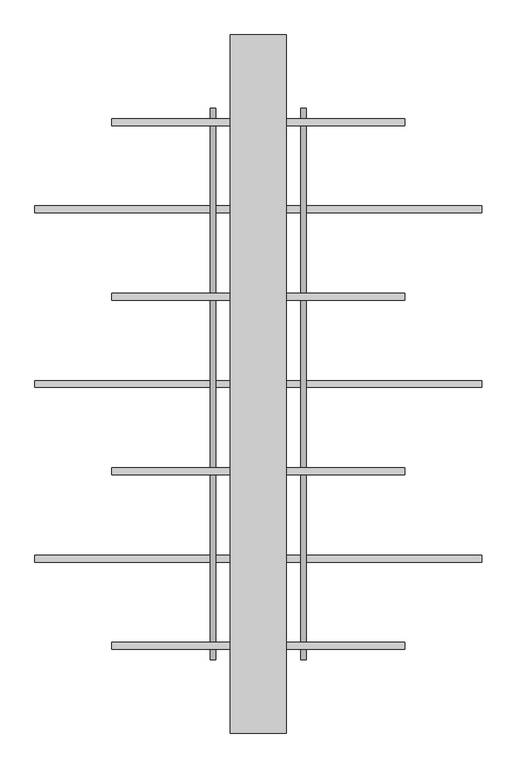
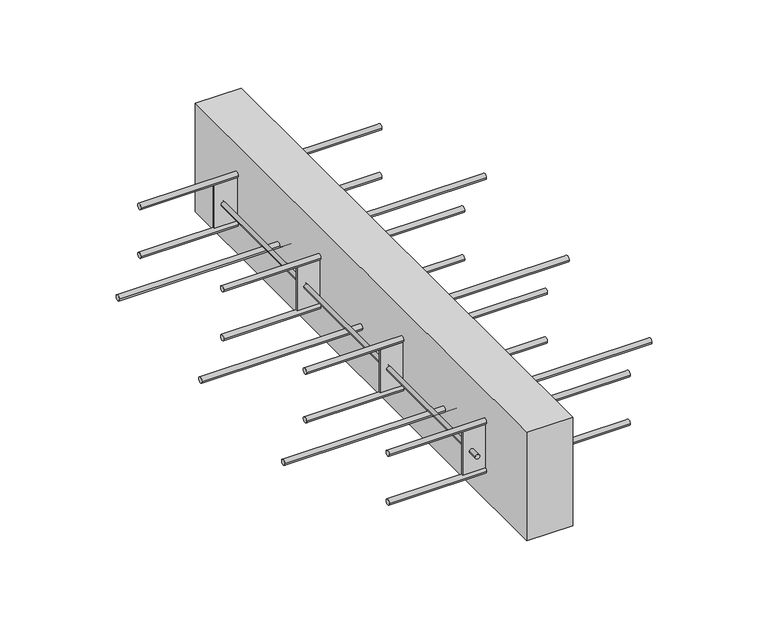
"""IFC4 building model written with IfcOpenShell, lengths in millimetres: proxy geometry, ACINOXplus_Typenreihe_Q : QC+ N."""

from ifc_helpers import new_model, si_unit, point, frame, frame_2d, origin, place, context, project, spatial, polyline, circle_curve, trimmed, segment, composite_curve, outline, extrude, source, transform, mapped, element, save


def generic_models_8f71b679(model_context):
    return source(origin(), model_context, "Body", "SweptSolid", [
        extrude(outline(composite_curve([segment(trimmed(circle_curve(frame_2d((0.0, -109.0)), 5.0), [point((-5.0, -109.0))], [point((5.0, -109.0))], False, "CARTESIAN"), True, "CONTINUOUS"), segment(trimmed(circle_curve(frame_2d((0.0, -109.0)), 5.0), [point((5.0, -109.0))], [point((-5.0, -109.0))], False, "CARTESIAN"), True, "CONTINUOUS")], self_intersect=False)), frame((-320.0, 0.0, 0.0), z_axis=(1.0, 0.0, 0.0), x_axis=(0.0, 1.0, 0.0)), (0.0, 0.0, 1.0), 640.0),
        extrude(outline(composite_curve([segment(trimmed(circle_curve(frame_2d((250.0, -109.0)), 5.0), [point((245.0, -109.0))], [point((255.0, -109.0))], False, "CARTESIAN"), True, "CONTINUOUS"), segment(trimmed(circle_curve(frame_2d((250.0, -109.0)), 5.0), [point((255.0, -109.0))], [point((245.0, -109.0))], False, "CARTESIAN"), True, "CONTINUOUS")], self_intersect=False)), frame((-320.0, 0.0, 0.0), z_axis=(1.0, 0.0, 0.0), x_axis=(0.0, 1.0, 0.0)), (0.0, 0.0, 1.0), 640.0),
        extrude(outline(composite_curve([segment(trimmed(circle_curve(frame_2d((-250.0, -109.0)), 5.0), [point((-255.0, -109.0))], [point((-245.0, -109.0))], False, "CARTESIAN"), True, "CONTINUOUS"), segment(trimmed(circle_curve(frame_2d((-250.0, -109.0)), 5.0), [point((-245.0, -109.0))], [point((-255.0, -109.0))], False, "CARTESIAN"), True, "CONTINUOUS")], self_intersect=False)), frame((-320.0, 0.0, 0.0), z_axis=(1.0, 0.0, 0.0), x_axis=(0.0, 1.0, 0.0)), (0.0, 0.0, 1.0), 640.0),
        extrude(outline(polyline([(40.0, 500.0), (40.0, -500.0), (-40.0, -500.0), (-40.0, 500.0), (40.0, 500.0)])), frame((0.0, 0.0, -200.0), z_axis=(0.0, 0.0, 1.0), x_axis=(1.0, 0.0, 0.0)), (0.0, 0.0, 1.0), 200.0),
        extrude(outline(polyline([(80.0, -123.5), (80.0, -126.5), (-80.0, -126.5), (-80.0, -123.5), (80.0, -123.5)])), frame((0.0, 0.0, -140.0), z_axis=(0.0, 0.0, 1.0), x_axis=(1.0, 0.0, 0.0)), (0.0, 0.0, 1.0), 80.0),
        extrude(outline(polyline([(80.0, 126.5), (80.0, 123.5), (-80.0, 123.5), (-80.0, 126.5), (80.0, 126.5)])), frame((0.0, 0.0, -140.0), z_axis=(0.0, 0.0, 1.0), x_axis=(1.0, 0.0, 0.0)), (0.0, 0.0, 1.0), 80.0),
        extrude(outline(polyline([(80.0, -373.5), (80.0, -376.5), (-80.0, -376.5), (-80.0, -373.5), (80.0, -373.5)])), frame((0.0, 0.0, -140.0), z_axis=(0.0, 0.0, 1.0), x_axis=(1.0, 0.0, 0.0)), (0.0, 0.0, 1.0), 80.0),
        extrude(outline(polyline([(80.0, 376.5), (80.0, 373.5), (-80.0, 373.5), (-80.0, 376.5), (80.0, 376.5)])), frame((0.0, 0.0, -140.0), z_axis=(0.0, 0.0, 1.0), x_axis=(1.0, 0.0, 0.0)), (0.0, 0.0, 1.0), 80.0),
        extrude(outline(composite_curve([segment(trimmed(circle_curve(frame_2d((-100.0, -65.0)), 4.0), [point((-100.0, -69.0))], [point((-100.0, -61.0))], False, "CARTESIAN"), True, "CONTINUOUS"), segment(trimmed(circle_curve(frame_2d((-100.0, -65.0)), 4.0), [point((-100.0, -61.0))], [point((-100.0, -69.0))], False, "CARTESIAN"), True, "CONTINUOUS")], self_intersect=False)), frame((0.0, -373.5, 0.0), z_axis=(0.0, 1.0, 0.0), x_axis=(0.0, 0.0, 1.0)), (0.0, 0.0, 1.0), 497.0),
        extrude(outline(composite_curve([segment(trimmed(circle_curve(frame_2d((-100.0, -65.0)), 4.0), [point((-100.0, -69.0))], [point((-100.0, -61.0))], False, "CARTESIAN"), True, "CONTINUOUS"), segment(trimmed(circle_curve(frame_2d((-100.0, -65.0)), 4.0), [point((-100.0, -61.0))], [point((-100.0, -69.0))], False, "CARTESIAN"), True, "CONTINUOUS")], self_intersect=False)), frame((0.0, 376.5, 0.0), z_axis=(0.0, 1.0, 0.0), x_axis=(0.0, 0.0, 1.0)), (0.0, 0.0, 1.0), 18.5),
        extrude(outline(composite_curve([segment(trimmed(circle_curve(frame_2d((-100.0, -65.0)), 4.0), [point((-100.0, -61.0))], [point((-100.0, -69.0))], False, "CARTESIAN"), True, "CONTINUOUS"), segment(trimmed(circle_curve(frame_2d((-100.0, -65.0)), 4.0), [point((-100.0, -69.0))], [point((-100.0, -61.0))], False, "CARTESIAN"), True, "CONTINUOUS")], self_intersect=False)), frame((0.0, -395.0, 0.0), z_axis=(0.0, 1.0, 0.0), x_axis=(0.0, 0.0, 1.0)), (0.0, 0.0, 1.0), 18.5),
        extrude(outline(composite_curve([segment(trimmed(circle_curve(frame_2d((-100.0, -65.0)), 4.0), [point((-100.0, -69.0))], [point((-100.0, -61.0))], False, "CARTESIAN"), True, "CONTINUOUS"), segment(trimmed(circle_curve(frame_2d((-100.0, -65.0)), 4.0), [point((-100.0, -61.0))], [point((-100.0, -69.0))], False, "CARTESIAN"), True, "CONTINUOUS")], self_intersect=False)), frame((0.0, 126.5, 0.0), z_axis=(0.0, 1.0, 0.0), x_axis=(0.0, 0.0, 1.0)), (0.0, 0.0, 1.0), 247.0),
        extrude(outline(composite_curve([segment(trimmed(circle_curve(frame_2d((-100.0, 65.0)), 4.0), [point((-100.0, 61.0))], [point((-100.0, 69.0))], False, "CARTESIAN"), True, "CONTINUOUS"), segment(trimmed(circle_curve(frame_2d((-100.0, 65.0)), 4.0), [point((-100.0, 69.0))], [point((-100.0, 61.0))], False, "CARTESIAN"), True, "CONTINUOUS")], self_intersect=False)), frame((0.0, -373.5, 0.0), z_axis=(0.0, 1.0, 0.0), x_axis=(0.0, 0.0, 1.0)), (0.0, 0.0, 1.0), 497.0),
        extrude(outline(composite_curve([segment(trimmed(circle_curve(frame_2d((-100.0, 65.0)), 4.0), [point((-100.0, 61.0))], [point((-100.0, 69.0))], False, "CARTESIAN"), True, "CONTINUOUS"), segment(trimmed(circle_curve(frame_2d((-100.0, 65.0)), 4.0), [point((-100.0, 69.0))], [point((-100.0, 61.0))], False, "CARTESIAN"), True, "CONTINUOUS")], self_intersect=False)), frame((0.0, 376.5, 0.0), z_axis=(0.0, 1.0, 0.0), x_axis=(0.0, 0.0, 1.0)), (0.0, 0.0, 1.0), 18.5),
        extrude(outline(composite_curve([segment(trimmed(circle_curve(frame_2d((-100.0, 65.0)), 4.0), [point((-100.0, 69.0))], [point((-100.0, 61.0))], False, "CARTESIAN"), True, "CONTINUOUS"), segment(trimmed(circle_curve(frame_2d((-100.0, 65.0)), 4.0), [point((-100.0, 61.0))], [point((-100.0, 69.0))], False, "CARTESIAN"), True, "CONTINUOUS")], self_intersect=False)), frame((0.0, -395.0, 0.0), z_axis=(0.0, 1.0, 0.0), x_axis=(0.0, 0.0, 1.0)), (0.0, 0.0, 1.0), 18.5),
        extrude(outline(composite_curve([segment(trimmed(circle_curve(frame_2d((-100.0, 65.0)), 4.0), [point((-100.0, 61.0))], [point((-100.0, 69.0))], False, "CARTESIAN"), True, "CONTINUOUS"), segment(trimmed(circle_curve(frame_2d((-100.0, 65.0)), 4.0), [point((-100.0, 69.0))], [point((-100.0, 61.0))], False, "CARTESIAN"), True, "CONTINUOUS")], self_intersect=False)), frame((0.0, 126.5, 0.0), z_axis=(0.0, 1.0, 0.0), x_axis=(0.0, 0.0, 1.0)), (0.0, 0.0, 1.0), 247.0),
        extrude(outline(composite_curve([segment(trimmed(circle_curve(frame_2d((125.0, -145.0)), 5.0), [point((120.0, -145.0))], [point((130.0, -145.0))], False, "CARTESIAN"), True, "CONTINUOUS"), segment(trimmed(circle_curve(frame_2d((125.0, -145.0)), 5.0), [point((130.0, -145.0))], [point((120.0, -145.0))], False, "CARTESIAN"), True, "CONTINUOUS")], self_intersect=False)), frame((-210.0, 0.0, 0.0), z_axis=(1.0, 0.0, 0.0), x_axis=(0.0, 1.0, 0.0)), (0.0, 0.0, 1.0), 420.0),
        extrude(outline(composite_curve([segment(trimmed(circle_curve(frame_2d((375.0, -145.0)), 5.0), [point((370.0, -145.0))], [point((380.0, -145.0))], False, "CARTESIAN"), True, "CONTINUOUS"), segment(trimmed(circle_curve(frame_2d((375.0, -145.0)), 5.0), [point((380.0, -145.0))], [point((370.0, -145.0))], False, "CARTESIAN"), True, "CONTINUOUS")], self_intersect=False)), frame((-210.0, 0.0, 0.0), z_axis=(1.0, 0.0, 0.0), x_axis=(0.0, 1.0, 0.0)), (0.0, 0.0, 1.0), 420.0),
        extrude(outline(composite_curve([segment(trimmed(circle_curve(frame_2d((-125.0, -145.0)), 5.0), [point((-130.0, -145.0))], [point((-120.0, -145.0))], False, "CARTESIAN"), True, "CONTINUOUS"), segment(trimmed(circle_curve(frame_2d((-125.0, -145.0)), 5.0), [point((-120.0, -145.0))], [point((-130.0, -145.0))], False, "CARTESIAN"), True, "CONTINUOUS")], self_intersect=False)), frame((-210.0, 0.0, 0.0), z_axis=(1.0, 0.0, 0.0), x_axis=(0.0, 1.0, 0.0)), (0.0, 0.0, 1.0), 420.0),
        extrude(outline(composite_curve([segment(trimmed(circle_curve(frame_2d((-375.0, -145.0)), 5.0), [point((-380.0, -145.0))], [point((-370.0, -145.0))], False, "CARTESIAN"), True, "CONTINUOUS"), segment(trimmed(circle_curve(frame_2d((-375.0, -145.0)), 5.0), [point((-370.0, -145.0))], [point((-380.0, -145.0))], False, "CARTESIAN"), True, "CONTINUOUS")], self_intersect=False)), frame((-210.0, 0.0, 0.0), z_axis=(1.0, 0.0, 0.0), x_axis=(0.0, 1.0, 0.0)), (0.0, 0.0, 1.0), 420.0),
        extrude(outline(composite_curve([segment(trimmed(circle_curve(frame_2d((125.0, -55.0)), 5.0), [point((120.0, -55.0))], [point((130.0, -55.0))], False, "CARTESIAN"), True, "CONTINUOUS"), segment(trimmed(circle_curve(frame_2d((125.0, -55.0)), 5.0), [point((130.0, -55.0))], [point((120.0, -55.0))], False, "CARTESIAN"), True, "CONTINUOUS")], self_intersect=False)), frame((-210.0, 0.0, 0.0), z_axis=(1.0, 0.0, 0.0), x_axis=(0.0, 1.0, 0.0)), (0.0, 0.0, 1.0), 420.0),
        extrude(outline(composite_curve([segment(trimmed(circle_curve(frame_2d((375.0, -55.0)), 5.0), [point((370.0, -55.0))], [point((380.0, -55.0))], False, "CARTESIAN"), True, "CONTINUOUS"), segment(trimmed(circle_curve(frame_2d((375.0, -55.0)), 5.0), [point((380.0, -55.0))], [point((370.0, -55.0))], False, "CARTESIAN"), True, "CONTINUOUS")], self_intersect=False)), frame((-210.0, 0.0, 0.0), z_axis=(1.0, 0.0, 0.0), x_axis=(0.0, 1.0, 0.0)), (0.0, 0.0, 1.0), 420.0),
        extrude(outline(composite_curve([segment(trimmed(circle_curve(frame_2d((-125.0, -55.0)), 5.0), [point((-130.0, -55.0))], [point((-120.0, -55.0))], False, "CARTESIAN"), True, "CONTINUOUS"), segment(trimmed(circle_curve(frame_2d((-125.0, -55.0)), 5.0), [point((-120.0, -55.0))], [point((-130.0, -55.0))], False, "CARTESIAN"), True, "CONTINUOUS")], self_intersect=False)), frame((-210.0, 0.0, 0.0), z_axis=(1.0, 0.0, 0.0), x_axis=(0.0, 1.0, 0.0)), (0.0, 0.0, 1.0), 420.0),
        extrude(outline(composite_curve([segment(trimmed(circle_curve(frame_2d((-375.0, -55.0)), 5.0), [point((-380.0, -55.0))], [point((-370.0, -55.0))], False, "CARTESIAN"), True, "CONTINUOUS"), segment(trimmed(circle_curve(frame_2d((-375.0, -55.0)), 5.0), [point((-370.0, -55.0))], [point((-380.0, -55.0))], False, "CARTESIAN"), True, "CONTINUOUS")], self_intersect=False)), frame((-210.0, 0.0, 0.0), z_axis=(1.0, 0.0, 0.0), x_axis=(0.0, 1.0, 0.0)), (0.0, 0.0, 1.0), 420.0),
    ])


if __name__ == "__main__":
    model = new_model("IFC4")
    model_context = context("Model", 3, world=origin())
    ifc_project = project(units=[si_unit("LENGTHUNIT", "METRE", prefix="MILLI")], contexts=[model_context])
    site = spatial("IfcSite", under=ifc_project)
    building = spatial("IfcBuilding", under=site)
    placement = place(None, origin())
    generic_models_shape = generic_models_8f71b679(model_context)
    element("IfcBuildingElementProxy", 1, Name="ACINOXplus_Typenreihe_Q : QC+ N", ObjectType="ACINOXplus_Typenreihe_Q : QC+ N", at=placement, inside=building, context=model_context, shape_type="MappedRepresentation", body=[
        mapped(generic_models_shape, transform((0.0, 0.0, 0.0), x_axis=(1.0, 0.0, 0.0), y_axis=(0.0, 1.0, 0.0), z_axis=(0.0, 0.0, 1.0))),
    ])
    save(model, "model.ifc")
